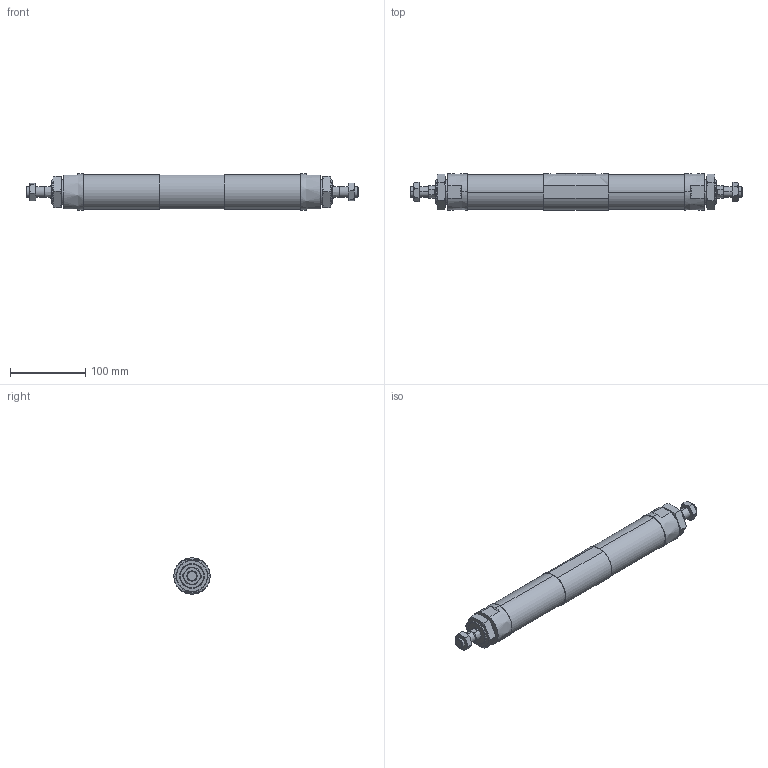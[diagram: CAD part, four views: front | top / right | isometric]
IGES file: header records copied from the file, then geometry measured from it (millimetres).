
Start section: SolidWorks IGES file using analytic representation for surfaces
Global section: file name: C:\Users\Toshiba\Desktop\JGD7-40-50-50-N.IGS; native system: SolidWorks 2014; preprocessor: SolidWorks 2014; author: Toshiba; date: 160419.152546; units: millimetre
Bounding box: 440 x 48 x 48 mm (x, y, z)
Surface area: 86865.7 mm2 (no closed solid volume)
Topology: 0 solids, 0 shells, 172 faces, 3200 edges, 3192 vertices
Faces by surface type: bspline 108, revolution 64
